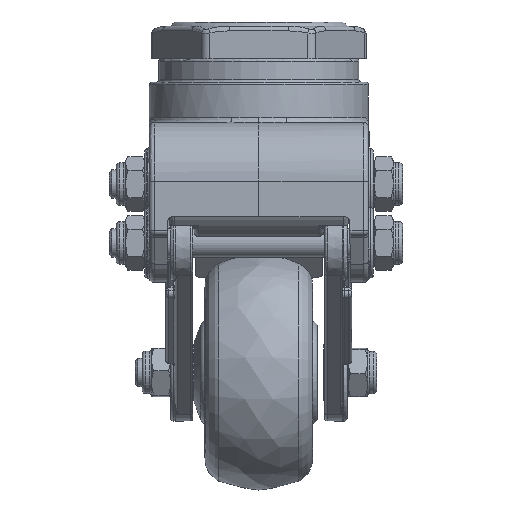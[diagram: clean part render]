
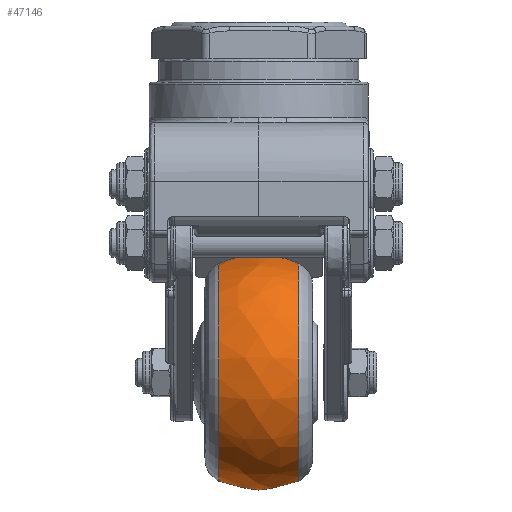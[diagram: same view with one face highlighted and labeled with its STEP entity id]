
A CAD part, left-side view. The second image highlights one B-rep face of the part: STEP entity #47146.
In plain terms, the highlighted free-form (B-spline) face has degree [2, 2] with [3, 9] control points.
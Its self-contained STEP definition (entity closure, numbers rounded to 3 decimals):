
#14=(
BOUNDED_SURFACE()
B_SPLINE_SURFACE(2,2,((#72085,#72086,#72087,#72088,#72089,#72090,#72091,
#72092,#72093),(#72094,#72095,#72096,#72097,#72098,#72099,#72100,#72101,
#72102),(#72103,#72104,#72105,#72106,#72107,#72108,#72109,#72110,#72111)),
 .UNSPECIFIED.,.F.,.T.,.F.)
B_SPLINE_SURFACE_WITH_KNOTS((3,3),(3,2,2,2,3),(-0.44,0.44),
(-3.142,-1.571,0.,1.571,3.142),
 .UNSPECIFIED.)
GEOMETRIC_REPRESENTATION_ITEM()
RATIONAL_B_SPLINE_SURFACE(((1.,0.707,1.,0.707,1.,
0.707,1.,0.707,1.),(0.905,0.64,
0.905,0.64,0.905,0.64,
0.905,0.64,0.905),(1.,0.707,
1.,0.707,1.,0.707,1.,0.707,1.)))
REPRESENTATION_ITEM('')
SURFACE()
);
#4664=CIRCLE('',#50563,23.096);
#4665=CIRCLE('',#50564,23.096);
#4666=CIRCLE('',#50565,20.);
#4667=CIRCLE('',#50566,23.096);
#4668=CIRCLE('',#50567,23.096);
#6272=FACE_OUTER_BOUND('',#9016,.T.);
#9016=EDGE_LOOP('',(#32241,#32242,#32243,#32244,#32245,#32246));
#18805=VERTEX_POINT('',#72112);
#18806=VERTEX_POINT('',#72113);
#18807=VERTEX_POINT('',#72116);
#18808=VERTEX_POINT('',#72118);
#23795=EDGE_CURVE('',#18805,#18806,#4664,.T.);
#23796=EDGE_CURVE('',#18806,#18805,#4665,.T.);
#23797=EDGE_CURVE('',#18806,#18807,#4666,.T.);
#23798=EDGE_CURVE('',#18807,#18808,#4667,.T.);
#23799=EDGE_CURVE('',#18808,#18807,#4668,.T.);
#32241=ORIENTED_EDGE('',*,*,#23795,.F.);
#32242=ORIENTED_EDGE('',*,*,#23796,.F.);
#32243=ORIENTED_EDGE('',*,*,#23797,.T.);
#32244=ORIENTED_EDGE('',*,*,#23798,.T.);
#32245=ORIENTED_EDGE('',*,*,#23799,.T.);
#32246=ORIENTED_EDGE('',*,*,#23797,.F.);
#47146=ADVANCED_FACE('',(#6272),#14,.F.);
#50563=AXIS2_PLACEMENT_3D('',#72114,#56443,#56444);
#50564=AXIS2_PLACEMENT_3D('',#72115,#56445,#56446);
#50565=AXIS2_PLACEMENT_3D('',#72117,#56447,#56448);
#50566=AXIS2_PLACEMENT_3D('',#72119,#56449,#56450);
#50567=AXIS2_PLACEMENT_3D('',#72120,#56451,#56452);
#56443=DIRECTION('center_axis',(0.,-1.,0.));
#56444=DIRECTION('ref_axis',(0.051,0.,-0.999));
#56445=DIRECTION('center_axis',(0.,-1.,0.));
#56446=DIRECTION('ref_axis',(0.051,0.,-0.999));
#56447=DIRECTION('center_axis',(-0.999,0.,
-0.051));
#56448=DIRECTION('ref_axis',(-0.051,0.,
0.999));
#56449=DIRECTION('center_axis',(0.,-1.,0.));
#56450=DIRECTION('ref_axis',(0.051,0.,-0.999));
#56451=DIRECTION('center_axis',(0.,-1.,0.));
#56452=DIRECTION('ref_axis',(0.051,0.,-0.999));
#72085=CARTESIAN_POINT('Ctrl Pts',(14.038,1.356,-49.726));
#72086=CARTESIAN_POINT('Ctrl Pts',(-9.028,1.356,-50.908));
#72087=CARTESIAN_POINT('Ctrl Pts',(-7.847,1.356,-73.974));
#72088=CARTESIAN_POINT('Ctrl Pts',(-6.665,1.356,-97.04));
#72089=CARTESIAN_POINT('Ctrl Pts',(16.401,1.356,-95.859));
#72090=CARTESIAN_POINT('Ctrl Pts',(39.467,1.356,-94.677));
#72091=CARTESIAN_POINT('Ctrl Pts',(38.285,1.356,-71.611));
#72092=CARTESIAN_POINT('Ctrl Pts',(37.104,1.356,-48.545));
#72093=CARTESIAN_POINT('Ctrl Pts',(14.038,1.356,-49.726));
#72094=CARTESIAN_POINT('Ctrl Pts',(13.833,-7.161,-45.724));
#72095=CARTESIAN_POINT('Ctrl Pts',(-13.236,-7.161,-47.11));
#72096=CARTESIAN_POINT('Ctrl Pts',(-11.849,-7.161,
-74.179));
#72097=CARTESIAN_POINT('Ctrl Pts',(-10.463,-7.161,
-101.247));
#72098=CARTESIAN_POINT('Ctrl Pts',(16.606,-7.161,-99.861));
#72099=CARTESIAN_POINT('Ctrl Pts',(43.674,-7.161,-98.474));
#72100=CARTESIAN_POINT('Ctrl Pts',(42.288,-7.161,-71.406));
#72101=CARTESIAN_POINT('Ctrl Pts',(40.901,-7.161,-44.337));
#72102=CARTESIAN_POINT('Ctrl Pts',(13.833,-7.161,-45.724));
#72103=CARTESIAN_POINT('Ctrl Pts',(14.038,-15.677,-49.726));
#72104=CARTESIAN_POINT('Ctrl Pts',(-9.028,-15.677,
-50.908));
#72105=CARTESIAN_POINT('Ctrl Pts',(-7.847,-15.677,-73.974));
#72106=CARTESIAN_POINT('Ctrl Pts',(-6.665,-15.677,
-97.04));
#72107=CARTESIAN_POINT('Ctrl Pts',(16.401,-15.677,-95.859));
#72108=CARTESIAN_POINT('Ctrl Pts',(39.467,-15.677,-94.677));
#72109=CARTESIAN_POINT('Ctrl Pts',(38.285,-15.677,-71.611));
#72110=CARTESIAN_POINT('Ctrl Pts',(37.104,-15.677,-48.545));
#72111=CARTESIAN_POINT('Ctrl Pts',(14.038,-15.677,-49.726));
#72112=CARTESIAN_POINT('',(16.401,-15.677,-95.859));
#72113=CARTESIAN_POINT('',(14.038,-15.677,-49.726));
#72114=CARTESIAN_POINT('Origin',(15.219,-15.677,-72.792));
#72115=CARTESIAN_POINT('Origin',(15.219,-15.677,-72.792));
#72116=CARTESIAN_POINT('',(14.038,1.356,-49.726));
#72117=CARTESIAN_POINT('Origin',(14.964,-7.161,-67.799));
#72118=CARTESIAN_POINT('',(16.401,1.356,-95.859));
#72119=CARTESIAN_POINT('Origin',(15.219,1.356,-72.792));
#72120=CARTESIAN_POINT('Origin',(15.219,1.356,-72.792));
